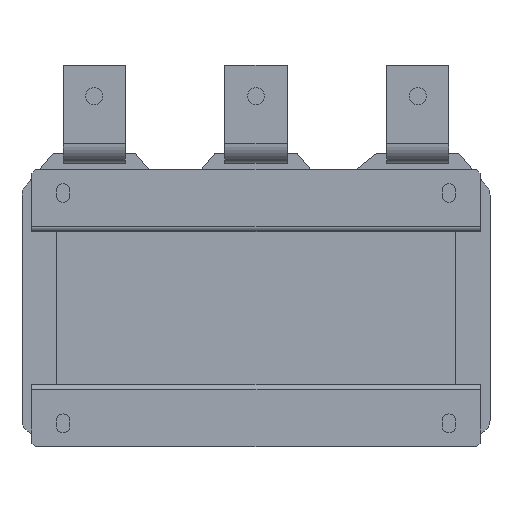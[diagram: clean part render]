
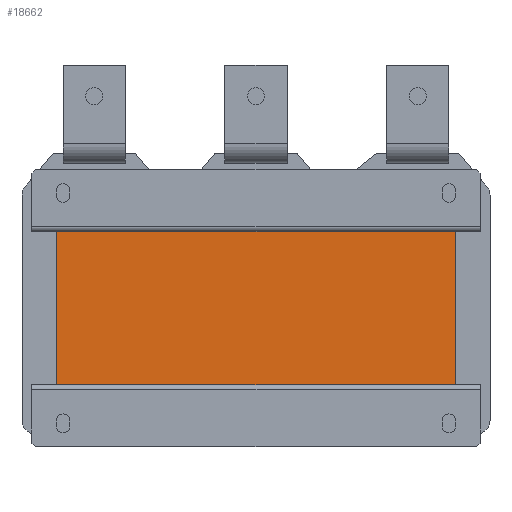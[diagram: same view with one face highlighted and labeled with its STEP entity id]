
A CAD part, front view. The second image highlights one B-rep face of the part: STEP entity #18662.
In plain terms, the highlighted planar face has unit normal (0, -1, 0).
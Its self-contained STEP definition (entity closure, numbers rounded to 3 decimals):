
#1684=LINE('',#30170,#3374);
#1752=LINE('',#30341,#3442);
#1856=LINE('',#30603,#3546);
#1861=LINE('',#30613,#3551);
#3374=VECTOR('',#24043,10.);
#3442=VECTOR('',#24227,10.);
#3546=VECTOR('',#24493,10.);
#3551=VECTOR('',#24508,10.);
#4507=PLANE('',#20078);
#5807=FACE_OUTER_BOUND('',#7092,.T.);
#7092=EDGE_LOOP('',(#16357,#16358,#16359,#16360));
#9100=VERTEX_POINT('',#30163);
#9102=VERTEX_POINT('',#30168);
#9145=VERTEX_POINT('',#30334);
#9147=VERTEX_POINT('',#30339);
#11397=EDGE_CURVE('',#9102,#9100,#1684,.T.);
#11482=EDGE_CURVE('',#9147,#9145,#1752,.T.);
#11612=EDGE_CURVE('',#9102,#9145,#1856,.T.);
#11617=EDGE_CURVE('',#9147,#9100,#1861,.T.);
#16357=ORIENTED_EDGE('',*,*,#11612,.T.);
#16358=ORIENTED_EDGE('',*,*,#11482,.F.);
#16359=ORIENTED_EDGE('',*,*,#11617,.T.);
#16360=ORIENTED_EDGE('',*,*,#11397,.F.);
#18662=ADVANCED_FACE('',(#5807),#4507,.T.);
#20078=AXIS2_PLACEMENT_3D('',#30627,#24532,#24533);
#24043=DIRECTION('',(-1.,0.,0.));
#24227=DIRECTION('',(1.,0.,0.));
#24493=DIRECTION('',(0.,0.,1.));
#24508=DIRECTION('',(0.,0.,-1.));
#24532=DIRECTION('center_axis',(0.,-1.,0.));
#24533=DIRECTION('ref_axis',(1.,0.,0.));
#30163=CARTESIAN_POINT('',(-160.,-210.,-61.5));
#30168=CARTESIAN_POINT('',(160.,-210.,-61.5));
#30170=CARTESIAN_POINT('',(160.,-210.,-61.5));
#30334=CARTESIAN_POINT('',(160.,-210.,61.5));
#30339=CARTESIAN_POINT('',(-160.,-210.,61.5));
#30341=CARTESIAN_POINT('',(160.,-210.,61.5));
#30603=CARTESIAN_POINT('',(160.,-210.,0.));
#30613=CARTESIAN_POINT('',(-160.,-210.,0.));
#30627=CARTESIAN_POINT('Origin',(-160.,-210.,0.));
